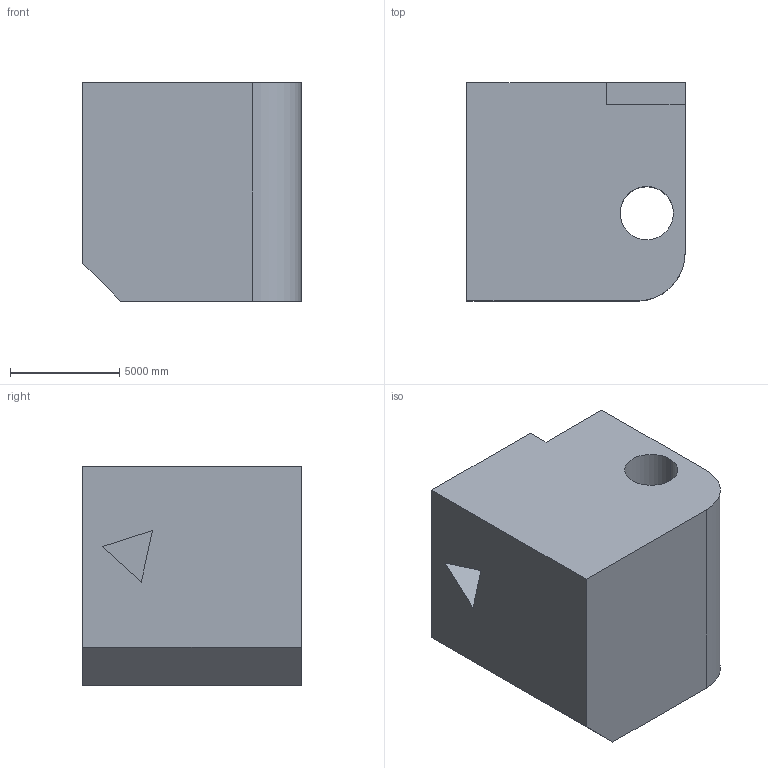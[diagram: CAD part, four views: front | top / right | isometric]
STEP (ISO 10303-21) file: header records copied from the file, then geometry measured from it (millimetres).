
FILE_DESCRIPTION (( 'STEP AP203' ), '1' );
FILE_NAME ('563.STEP', '2022-08-04T14:31:26', ( 'user' ), ( '' ), 'SwSTEP 2.0', 'SolidWorks 2021', '' );
FILE_SCHEMA (( 'CONFIG_CONTROL_DESIGN' ));
Length unit declared in the file: centimetre
Products named in the file (1): 563
Bounding box: 10000 x 10000 x 10000 mm (x, y, z)
Volume: 890378941715.9 mm3; surface area: 702907867.3 mm2
Topology: 1 solids, 1 shells, 21 faces, 54 edges, 36 vertices
Faces by surface type: plane 17, cylinder 4
Entity records: 717 total; most frequent: CARTESIAN_POINT 112, ORIENTED_EDGE 108, DIRECTION 106, EDGE_CURVE 54, LINE 46, VECTOR 46, VERTEX_POINT 36, AXIS2_PLACEMENT_3D 30
